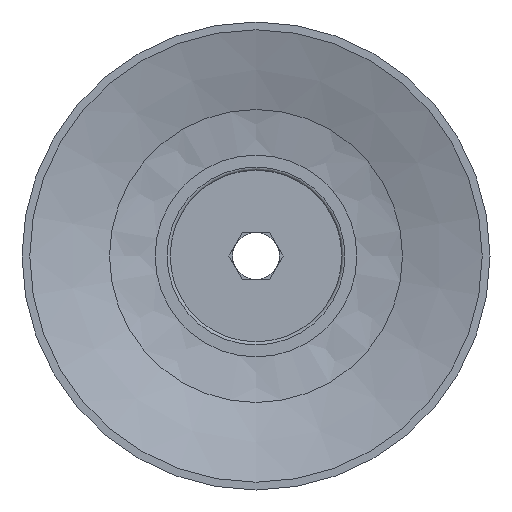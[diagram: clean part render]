
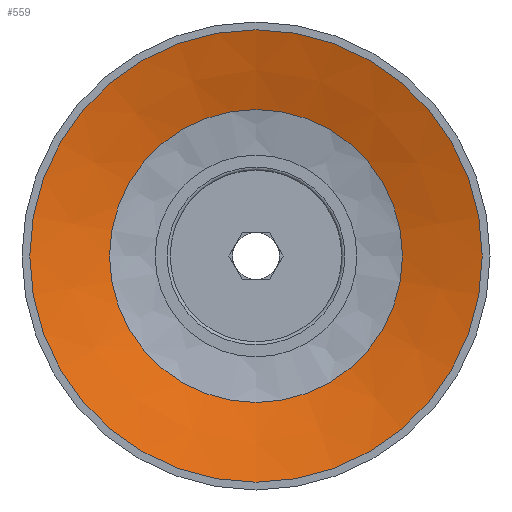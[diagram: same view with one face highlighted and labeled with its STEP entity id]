
A CAD part, front view. The second image highlights one B-rep face of the part: STEP entity #559.
In plain terms, the highlighted conical face has half-angle 73 degrees and reference radius 7.958 mm.
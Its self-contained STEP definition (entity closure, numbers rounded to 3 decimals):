
#559=ADVANCED_FACE('',(#813,#814),#815,.F.);
#813=FACE_BOUND('',#1090,.T.);
#814=FACE_OUTER_BOUND('',#1091,.T.);
#815=CONICAL_SURFACE('',#1092,7.958,1.274);
#1090=EDGE_LOOP('',(#1896));
#1091=EDGE_LOOP('',(#1897));
#1092=AXIS2_PLACEMENT_3D('',#1898,#1899,#1900);
#1896=ORIENTED_EDGE('',*,*,#2166,.T.);
#1897=ORIENTED_EDGE('',*,*,#2167,.T.);
#1898=CARTESIAN_POINT('',(0.0,9.363,0.0));
#1899=DIRECTION('',(-0.0,-1.0,0.));
#1900=DIRECTION('',(0.0,0.,-1.0));
#2166=EDGE_CURVE('',#2531,#2531,#2532,.T.);
#2167=EDGE_CURVE('',#2533,#2533,#2534,.T.);
#2531=VERTEX_POINT('',#3339);
#2532=CIRCLE('',#3340,9.388);
#2533=VERTEX_POINT('',#3341);
#2534=CIRCLE('',#3342,14.5);
#3339=CARTESIAN_POINT('',(0.0,8.926,-9.388));
#3340=AXIS2_PLACEMENT_3D('',#3664,#3665,#3666);
#3341=CARTESIAN_POINT('',(0.0,7.363,-14.5));
#3342=AXIS2_PLACEMENT_3D('',#3667,#3668,#3669);
#3664=CARTESIAN_POINT('',(0.0,8.926,0.0));
#3665=DIRECTION('',(0.0,1.0,0.));
#3666=DIRECTION('',(0.0,0.,-1.0));
#3667=CARTESIAN_POINT('',(0.0,7.363,0.0));
#3668=DIRECTION('',(0.0,-1.0,0.));
#3669=DIRECTION('',(0.0,0.,-1.0));
